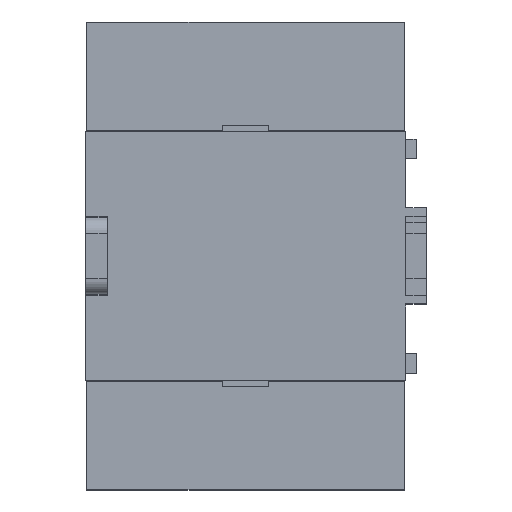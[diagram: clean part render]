
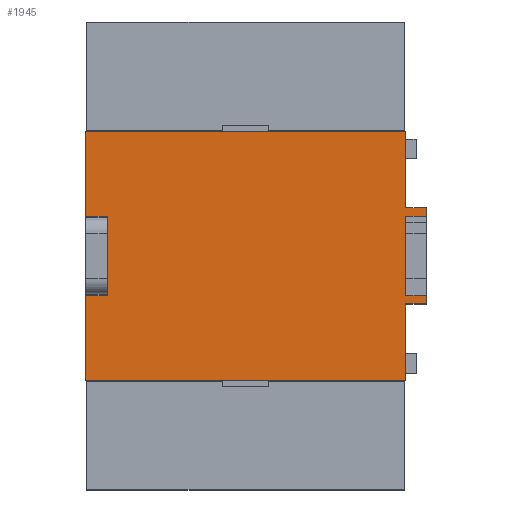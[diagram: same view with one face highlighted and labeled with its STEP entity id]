
A CAD part, top view. The second image highlights one B-rep face of the part: STEP entity #1945.
In plain terms, the highlighted planar face has unit normal (0, 0, 1).
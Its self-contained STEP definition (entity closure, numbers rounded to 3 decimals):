
#214=DIRECTION('',(-1.,0.,0.));
#215=VECTOR('',#214,4.);
#216=CARTESIAN_POINT('',(34.8,-7.6,22.));
#217=LINE('',#216,#215);
#218=DIRECTION('',(0.,1.,0.));
#219=VECTOR('',#218,1.65);
#220=CARTESIAN_POINT('',(34.8,-9.25,22.));
#221=LINE('',#220,#219);
#222=DIRECTION('',(1.,0.,0.));
#223=VECTOR('',#222,4.);
#224=CARTESIAN_POINT('',(30.8,-9.25,22.));
#225=LINE('',#224,#223);
#226=DIRECTION('',(0.,1.,0.));
#227=VECTOR('',#226,14.75);
#228=CARTESIAN_POINT('',(30.8,-24.,22.));
#229=LINE('',#228,#227);
#230=DIRECTION('',(0.,-1.,0.));
#231=VECTOR('',#230,16.4);
#232=CARTESIAN_POINT('',(-30.8,-7.6,22.));
#233=LINE('',#232,#231);
#234=DIRECTION('',(-1.,0.,0.));
#235=VECTOR('',#234,4.2);
#236=CARTESIAN_POINT('',(-26.6,-7.6,22.));
#237=LINE('',#236,#235);
#238=DIRECTION('',(0.,-1.,0.));
#239=VECTOR('',#238,15.2);
#240=CARTESIAN_POINT('',(-26.6,7.6,22.));
#241=LINE('',#240,#239);
#242=DIRECTION('',(1.,0.,0.));
#243=VECTOR('',#242,4.2);
#244=CARTESIAN_POINT('',(-30.8,7.6,22.));
#245=LINE('',#244,#243);
#246=DIRECTION('',(0.,-1.,0.));
#247=VECTOR('',#246,16.4);
#248=CARTESIAN_POINT('',(-30.8,24.,22.));
#249=LINE('',#248,#247);
#250=DIRECTION('',(0.,1.,0.));
#251=VECTOR('',#250,14.75);
#252=CARTESIAN_POINT('',(30.8,9.25,22.));
#253=LINE('',#252,#251);
#254=DIRECTION('',(-1.,0.,0.));
#255=VECTOR('',#254,4.);
#256=CARTESIAN_POINT('',(34.8,9.25,22.));
#257=LINE('',#256,#255);
#258=DIRECTION('',(0.,1.,0.));
#259=VECTOR('',#258,1.65);
#260=CARTESIAN_POINT('',(34.8,7.6,22.));
#261=LINE('',#260,#259);
#262=DIRECTION('',(-1.,0.,0.));
#263=VECTOR('',#262,4.);
#264=CARTESIAN_POINT('',(34.8,7.6,22.));
#265=LINE('',#264,#263);
#266=DIRECTION('',(0.,1.,0.));
#267=VECTOR('',#266,15.2);
#268=CARTESIAN_POINT('',(30.8,-7.6,22.));
#269=LINE('',#268,#267);
#386=DIRECTION('',(1.,0.,0.));
#387=VECTOR('',#386,61.6);
#388=CARTESIAN_POINT('',(-30.8,-24.,22.));
#389=LINE('',#388,#387);
#538=DIRECTION('',(-1.,0.,0.));
#539=VECTOR('',#538,61.6);
#540=CARTESIAN_POINT('',(30.8,24.,22.));
#541=LINE('',#540,#539);
#1314=CARTESIAN_POINT('',(-30.8,24.,22.));
#1315=CARTESIAN_POINT('',(-30.8,7.6,22.));
#1316=VERTEX_POINT('',#1314);
#1317=VERTEX_POINT('',#1315);
#1322=CARTESIAN_POINT('',(30.8,-24.,22.));
#1323=CARTESIAN_POINT('',(30.8,-9.25,22.));
#1324=VERTEX_POINT('',#1322);
#1325=VERTEX_POINT('',#1323);
#1326=CARTESIAN_POINT('',(34.8,-9.25,22.));
#1327=VERTEX_POINT('',#1326);
#1328=CARTESIAN_POINT('',(34.8,9.25,22.));
#1329=CARTESIAN_POINT('',(30.8,9.25,22.));
#1330=VERTEX_POINT('',#1328);
#1331=VERTEX_POINT('',#1329);
#1332=CARTESIAN_POINT('',(30.8,24.,22.));
#1333=VERTEX_POINT('',#1332);
#1344=CARTESIAN_POINT('',(-26.6,7.6,22.));
#1345=VERTEX_POINT('',#1344);
#1346=CARTESIAN_POINT('',(-26.6,-7.6,22.));
#1347=VERTEX_POINT('',#1346);
#1348=CARTESIAN_POINT('',(-30.8,-7.6,22.));
#1349=VERTEX_POINT('',#1348);
#1350=CARTESIAN_POINT('',(-30.8,-24.,22.));
#1351=VERTEX_POINT('',#1350);
#1590=CARTESIAN_POINT('',(34.8,-7.6,22.));
#1591=CARTESIAN_POINT('',(30.8,-7.6,22.));
#1592=VERTEX_POINT('',#1590);
#1593=VERTEX_POINT('',#1591);
#1594=CARTESIAN_POINT('',(34.8,7.6,22.));
#1595=CARTESIAN_POINT('',(30.8,7.6,22.));
#1596=VERTEX_POINT('',#1594);
#1597=VERTEX_POINT('',#1595);
#1906=CARTESIAN_POINT('',(0.,0.,22.));
#1907=DIRECTION('',(0.,0.,1.));
#1908=DIRECTION('',(1.,0.,0.));
#1909=AXIS2_PLACEMENT_3D('',#1906,#1907,#1908);
#1910=PLANE('',#1909);
#1912=ORIENTED_EDGE('',*,*,#1911,.F.);
#1914=ORIENTED_EDGE('',*,*,#1913,.F.);
#1916=ORIENTED_EDGE('',*,*,#1915,.F.);
#1918=ORIENTED_EDGE('',*,*,#1917,.F.);
#1920=ORIENTED_EDGE('',*,*,#1919,.F.);
#1922=ORIENTED_EDGE('',*,*,#1921,.F.);
#1924=ORIENTED_EDGE('',*,*,#1923,.F.);
#1926=ORIENTED_EDGE('',*,*,#1925,.F.);
#1928=ORIENTED_EDGE('',*,*,#1927,.F.);
#1930=ORIENTED_EDGE('',*,*,#1929,.F.);
#1932=ORIENTED_EDGE('',*,*,#1931,.F.);
#1934=ORIENTED_EDGE('',*,*,#1933,.F.);
#1936=ORIENTED_EDGE('',*,*,#1935,.F.);
#1938=ORIENTED_EDGE('',*,*,#1937,.F.);
#1940=ORIENTED_EDGE('',*,*,#1939,.T.);
#1942=ORIENTED_EDGE('',*,*,#1941,.F.);
#1943=EDGE_LOOP('',(#1912,#1914,#1916,#1918,#1920,#1922,#1924,#1926,#1928,#1930,
#1932,#1934,#1936,#1938,#1940,#1942));
#1944=FACE_OUTER_BOUND('',#1943,.F.);
#1945=ADVANCED_FACE('',(#1944),#1910,.T.);
#1911=EDGE_CURVE('',#1592,#1593,#217,.T.);
#1913=EDGE_CURVE('',#1327,#1592,#221,.T.);
#1915=EDGE_CURVE('',#1325,#1327,#225,.T.);
#1917=EDGE_CURVE('',#1324,#1325,#229,.T.);
#1919=EDGE_CURVE('',#1351,#1324,#389,.T.);
#1921=EDGE_CURVE('',#1349,#1351,#233,.T.);
#1923=EDGE_CURVE('',#1347,#1349,#237,.T.);
#1925=EDGE_CURVE('',#1345,#1347,#241,.T.);
#1927=EDGE_CURVE('',#1317,#1345,#245,.T.);
#1929=EDGE_CURVE('',#1316,#1317,#249,.T.);
#1931=EDGE_CURVE('',#1333,#1316,#541,.T.);
#1933=EDGE_CURVE('',#1331,#1333,#253,.T.);
#1935=EDGE_CURVE('',#1330,#1331,#257,.T.);
#1937=EDGE_CURVE('',#1596,#1330,#261,.T.);
#1939=EDGE_CURVE('',#1596,#1597,#265,.T.);
#1941=EDGE_CURVE('',#1593,#1597,#269,.T.);
